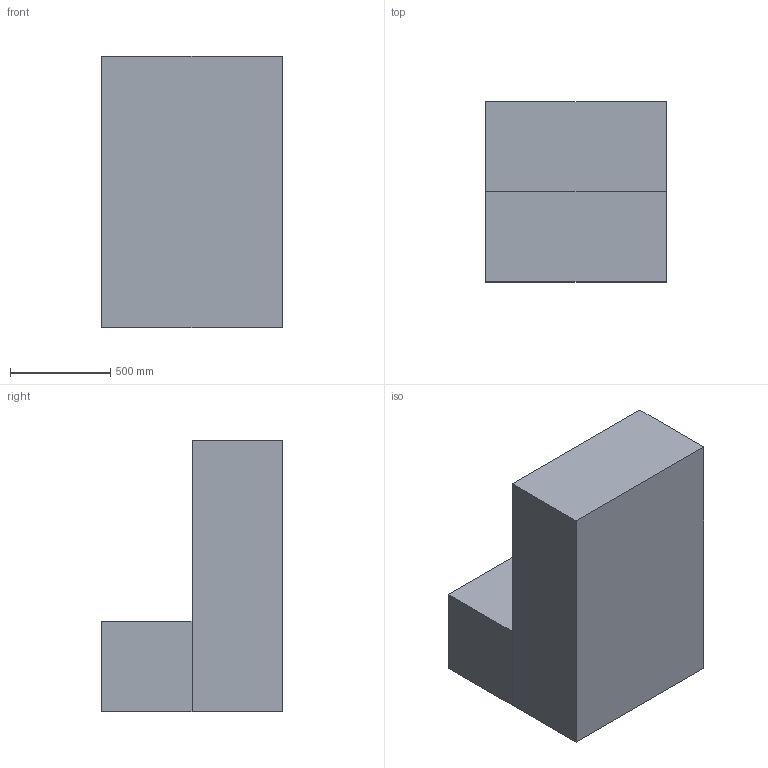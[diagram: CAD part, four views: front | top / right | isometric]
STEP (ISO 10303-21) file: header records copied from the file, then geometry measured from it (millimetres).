
FILE_DESCRIPTION (( 'STEP AP203' ), '1' );
FILE_NAME ('Type A Plus.STEP', '2019-01-15T13:53:53', ( '' ), ( '' ), 'SwSTEP 2.0', 'SolidWorks 2019', '' );
FILE_SCHEMA (( 'CONFIG_CONTROL_DESIGN' ));
Length unit declared in the file: millimetre
Products named in the file (3): Type A Plus; Extrabox Type E_Domy˜lna; Extrabox Type B_Domy˜lna
Assembly tree (2 placements, depth 2):
  Type A Plus
    Extrabox Type E_Domy˜lna
    Extrabox Type B_Domy˜lna
Bounding box: 900 x 900 x 1350 mm (x, y, z)
Volume: 729000000 mm3; surface area: 6480000 mm2
Topology: 2 solids, 2 shells, 12 faces, 24 edges, 16 vertices
Faces by surface type: plane 12
Entity records: 613 total; most frequent: DIRECTION 58, CARTESIAN_POINT 57, ORIENTED_EDGE 48, PERSON_AND_ORGANIZATION 26, VECTOR 24, EDGE_CURVE 24, LINE 24, LOCAL_TIME 19
